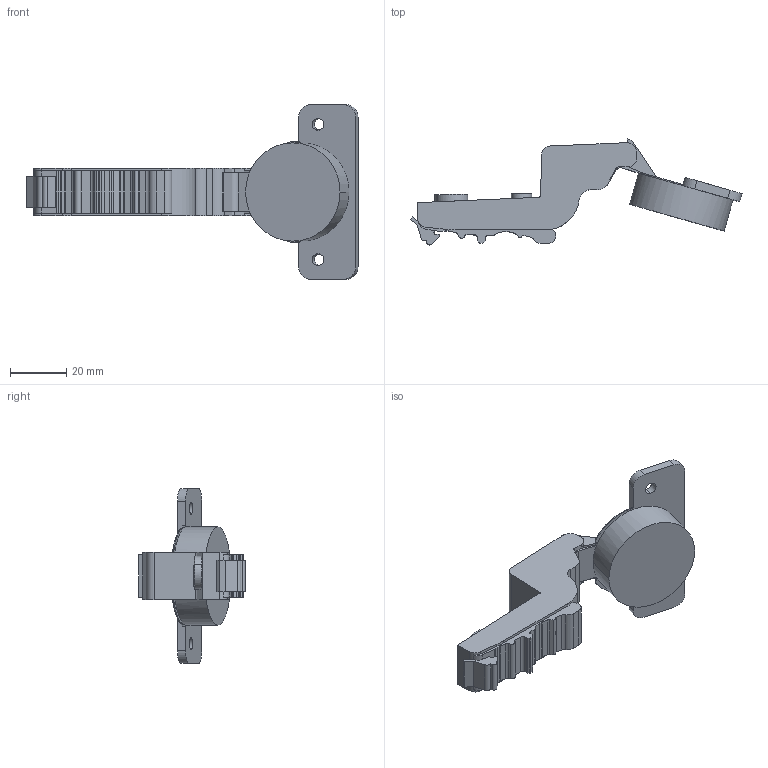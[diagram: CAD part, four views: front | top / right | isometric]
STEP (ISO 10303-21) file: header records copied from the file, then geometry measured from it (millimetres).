
FILE_DESCRIPTION (( 'STEP AP203' ), '1' );
FILE_NAME ('C82C676FA-DTC 3D open.STEP', '2024-09-07T00:31:15', ( '微软用户' ), ( '微软中国' ), 'SwSTEP 2.0', 'SolidWorks 2021', '' );
FILE_SCHEMA (( 'CONFIG_CONTROL_DESIGN' ));
Length unit declared in the file: millimetre
Products named in the file (1): C82C676FA-DTC 3D open
Bounding box: 117.63 x 37.57 x 61.96 mm (x, y, z)
Volume: 36163.6 mm3; surface area: 11742.3 mm2
Topology: 1 solids, 1 shells, 152 faces, 446 edges, 296 vertices
Faces by surface type: cylinder 76, plane 76
Entity records: 5187 total; most frequent: CARTESIAN_POINT 925, DIRECTION 898, ORIENTED_EDGE 892, EDGE_CURVE 446, AXIS2_PLACEMENT_3D 309, VERTEX_POINT 296, LINE 280, VECTOR 280
